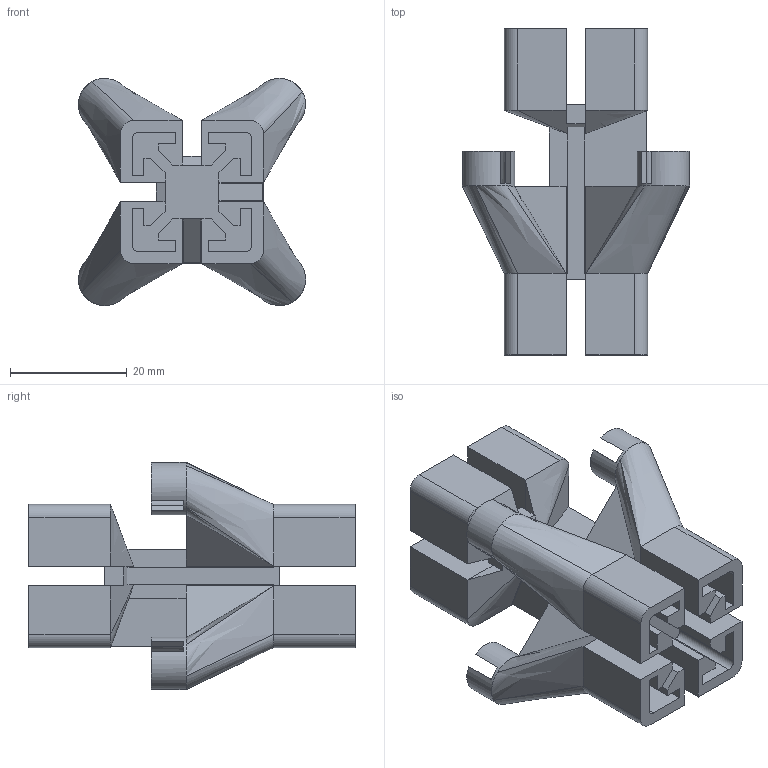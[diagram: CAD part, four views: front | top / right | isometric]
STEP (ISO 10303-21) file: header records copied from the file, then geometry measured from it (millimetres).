
FILE_DESCRIPTION(/* description */ (''),/* implementation_level */ '2;1');
FILE_NAME(/* name */ 'C:/Users/priba/Downloads/ArenaJoinMiddle.step',/* time_stamp */ '2021-11-07T18:17:35+01:00',/* author */ (''),/* organization */ (''),/* preprocessor_version */ 'ST-DEVELOPER v18.1',/* originating_system */ 'Autodesk Translation Framework v10.10.0.1391',/* authorisation */ '');
FILE_SCHEMA (('AUTOMOTIVE_DESIGN { 1 0 10303 214 3 1 1 }'));
Length unit declared in the file: millimetre
Products named in the file (1): ArenaJoinMiddle
Bounding box: 38.99 x 56 x 38.99 mm (x, y, z)
Volume: 15275.1 mm3; surface area: 17131 mm2
Topology: 1 solids, 9 shells, 412 faces, 1119 edges, 725 vertices
Faces by surface type: plane 336, bspline 48, cylinder 28
Full cylindrical faces by diameter (mm): 6.4 x4, 9 x4
Entity records: 15654 total; most frequent: CARTESIAN_POINT 5564, ORIENTED_EDGE 2256, DIRECTION 1822, EDGE_CURVE 1128, LINE 860, VECTOR 860, VERTEX_POINT 725, AXIS2_PLACEMENT_3D 481
